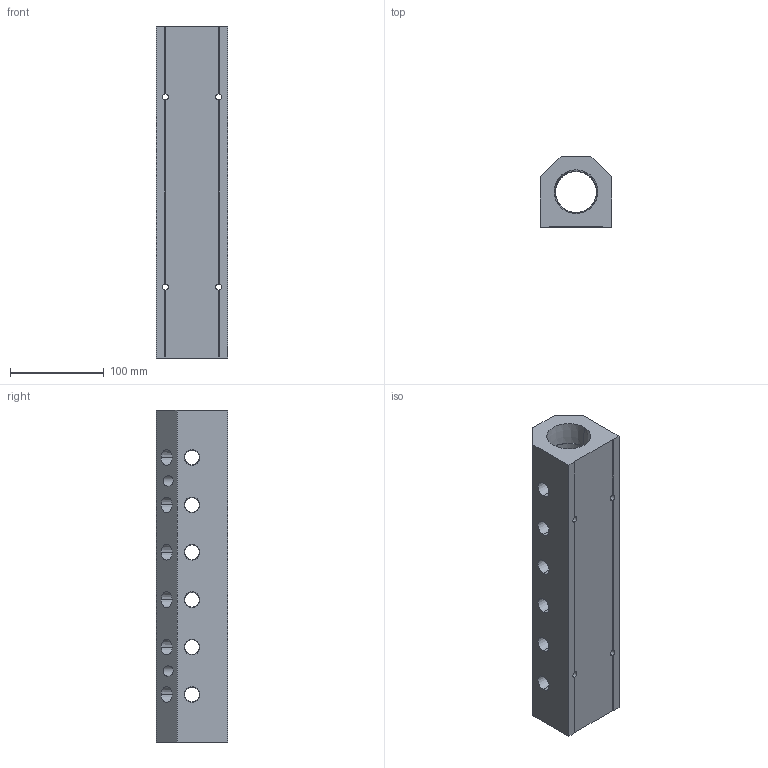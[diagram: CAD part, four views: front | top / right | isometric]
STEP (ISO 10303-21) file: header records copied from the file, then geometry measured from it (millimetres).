
FILE_DESCRIPTION (( 'STEP AP214' ), '1' );
FILE_NAME ('ALM6ABCDE-N6N24-355B.step', '2022-02-07T09:08:22', ( '' ), ( '' ), 'SwSTEP 2.0', 'SolidWorks 2020', '' );
FILE_SCHEMA (( 'AUTOMOTIVE_DESIGN' ));
Length unit declared in the file: millimetre
Products named in the file (1): ALM6ABCDE-N6N24-355B
Bounding box: 76.2 x 76.2 x 355 mm (x, y, z)
Volume: 1217200.5 mm3; surface area: 174518.6 mm2
Topology: 1 solids, 1 shells, 406 faces, 1102 edges, 724 vertices
Faces by surface type: plane 235, bspline 89, cone 64, cylinder 18
Entity records: 24741 total; most frequent: CARTESIAN_POINT 11120, ORIENTED_EDGE 2204, DIRECTION 1580, EDGE_CURVE 1102, VECTOR 752, LINE 752, VERTEX_POINT 724, EDGE_LOOP 502
